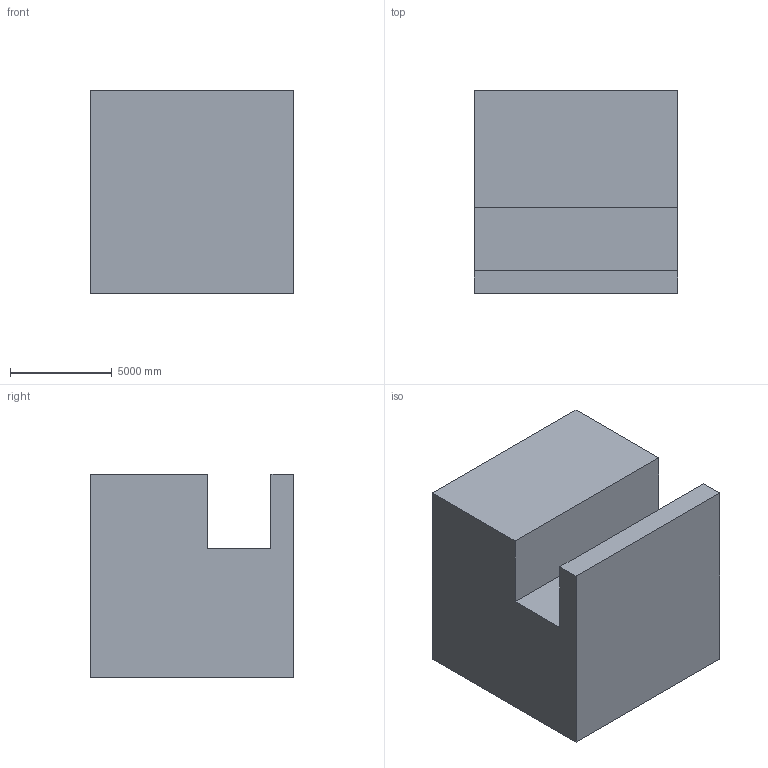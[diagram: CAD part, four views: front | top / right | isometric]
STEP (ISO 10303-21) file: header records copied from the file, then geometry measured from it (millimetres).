
FILE_DESCRIPTION (( 'STEP AP203' ), '1' );
FILE_NAME ('180.STEP', '2022-07-28T13:49:47', ( 'user' ), ( '' ), 'SwSTEP 2.0', 'SolidWorks 2021', '' );
FILE_SCHEMA (( 'CONFIG_CONTROL_DESIGN' ));
Length unit declared in the file: centimetre
Products named in the file (1): 180
Bounding box: 10000 x 10000 x 10000 mm (x, y, z)
Volume: 875168773308.5 mm3; surface area: 670913779.2 mm2
Topology: 1 solids, 1 shells, 17 faces, 42 edges, 28 vertices
Faces by surface type: plane 17
Entity records: 573 total; most frequent: CARTESIAN_POINT 88, ORIENTED_EDGE 84, DIRECTION 78, VECTOR 42, LINE 42, EDGE_CURVE 42, VERTEX_POINT 28, AXIS2_PLACEMENT_3D 18
